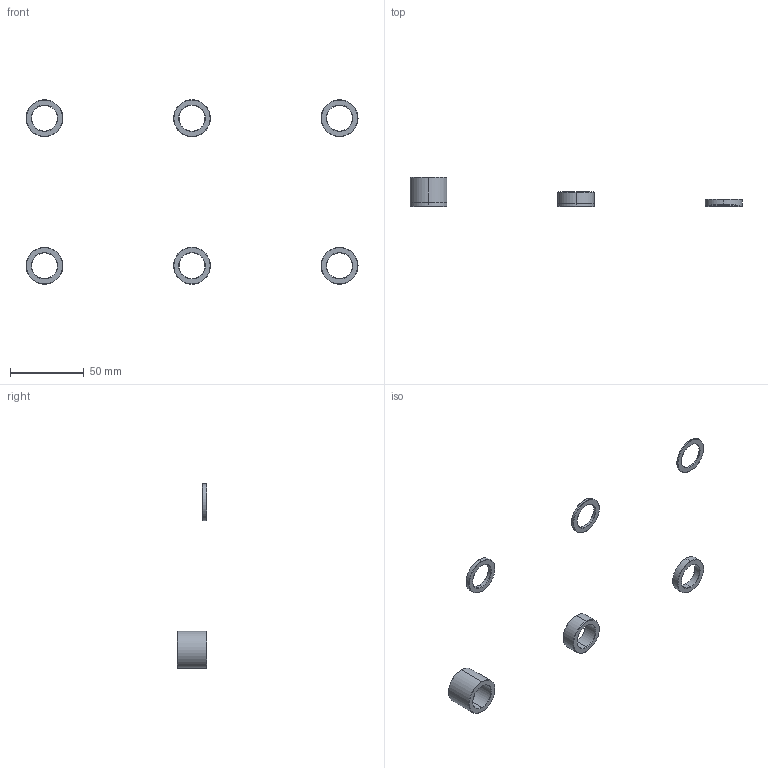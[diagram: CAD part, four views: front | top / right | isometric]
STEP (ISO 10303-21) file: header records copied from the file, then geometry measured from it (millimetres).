
FILE_DESCRIPTION (( 'STEP AP203' ), '1' );
FILE_NAME ('160821.2.step', '2014-08-11T17:00:20', ( 'User' ), ( '' ), 'SwSTEP 2.0', 'SolidWorks 2014', '' );
FILE_SCHEMA (( 'CONFIG_CONTROL_DESIGN' ));
Length unit declared in the file: millimetre
Products named in the file (7): 160821.2 Distanzscheiben_Foto^160821.2_3mm; 160821.2 Distanzscheiben_Foto^160821.2_20mm; 160821.2; 160821.2 Distanzscheiben_Foto^160821.2_2,54mm; 160821.2 Distanzscheiben_Foto^160821.2_50mm; 160821.2 Distanzscheiben_Foto^160821.2_4mm; 160821.2 Distanzscheiben_Foto^160821.2_40mm
Assembly tree (6 placements, depth 2):
  160821.2
    160821.2 Distanzscheiben_Foto^160821.2_2,54mm
    160821.2 Distanzscheiben_Foto^160821.2_50mm
    160821.2 Distanzscheiben_Foto^160821.2_4mm
    160821.2 Distanzscheiben_Foto^160821.2_40mm
    160821.2 Distanzscheiben_Foto^160821.2_3mm
    160821.2 Distanzscheiben_Foto^160821.2_20mm
Bounding box: 225 x 20 x 125 mm (x, y, z)
Volume: 10232.1 mm3; surface area: 8290.7 mm2
Topology: 6 solids, 6 shells, 84 faces, 168 edges, 96 vertices
Faces by surface type: cone 48, cylinder 24, plane 12
Entity records: 2929 total; most frequent: DIRECTION 450, CARTESIAN_POINT 357, ORIENTED_EDGE 336, AXIS2_PLACEMENT_3D 189, EDGE_CURVE 168, EDGE_LOOP 96, CIRCLE 96, VERTEX_POINT 96
